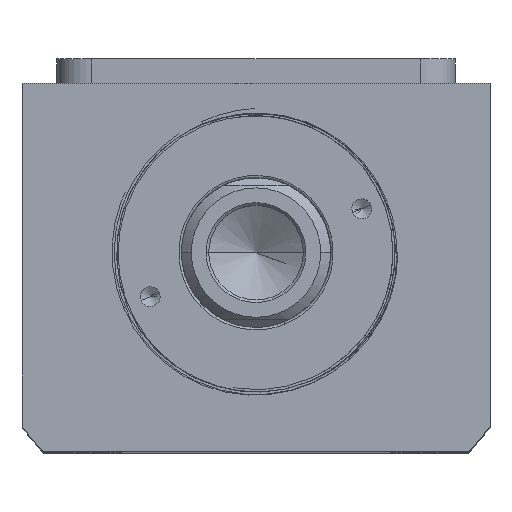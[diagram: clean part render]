
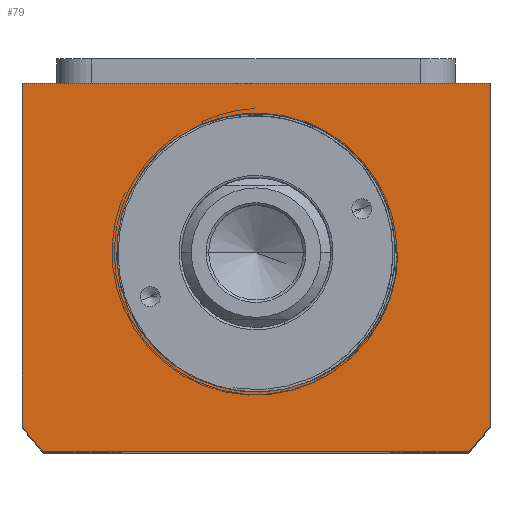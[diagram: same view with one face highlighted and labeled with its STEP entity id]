
A CAD part, top view. The second image highlights one B-rep face of the part: STEP entity #79.
In plain terms, the highlighted planar face has unit normal (0, 0, 1).
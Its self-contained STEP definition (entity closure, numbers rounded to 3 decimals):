
#7 = CARTESIAN_POINT ( 'NONE',  ( 27.555, -6.99, 75. ) ) ;
#79 = ADVANCED_FACE ( 'NONE', ( #1642, #7566 ), #760, .T. ) ;
#760 = PLANE ( 'NONE',  #10814 ) ;
#833 = LINE ( 'NONE', #6453, #7050 ) ;
#834 = CARTESIAN_POINT ( 'NONE',  ( 27.887, -5.628, 75. ) ) ;
#867 = CARTESIAN_POINT ( 'NONE',  ( 28.495, 0., 75. ) ) ;
#868 = CARTESIAN_POINT ( 'NONE',  ( 42.688, -40., 75. ) ) ;
#910 = CARTESIAN_POINT ( 'NONE',  ( 26.163, -10.961, 75. ) ) ;
#1214 = EDGE_CURVE ( 'NONE', #7648, #1430, #833, .T. ) ;
#1307 = VERTEX_POINT ( 'NONE', #7579 ) ;
#1430 = VERTEX_POINT ( 'NONE', #6919 ) ;
#1642 = FACE_BOUND ( 'NONE', #4485, .T. ) ;
#1779 = CARTESIAN_POINT ( 'NONE',  ( 24.898, -13.504, 75. ) ) ;
#1800 = CIRCLE ( 'NONE', #9232, 28. ) ;
#1940 = CARTESIAN_POINT ( 'NONE',  ( 10.89, -25.816, 75. ) ) ;
#2410 = DIRECTION ( 'NONE',  ( -1., 0., 0. ) ) ;
#2593 = CARTESIAN_POINT ( 'NONE',  ( 28., 0., 75. ) ) ;
#2654 = CIRCLE ( 'NONE', #7961, 58.5 ) ;
#2695 = CARTESIAN_POINT ( 'NONE',  ( 22.571, -17.007, 75. ) ) ;
#2772 = DIRECTION ( 'NONE',  ( 0., -1., 0. ) ) ;
#2850 = CARTESIAN_POINT ( 'NONE',  ( 0., 0., 75. ) ) ;
#3032 = VECTOR ( 'NONE', #9364, 1000. ) ;
#3091 = EDGE_CURVE ( 'NONE', #5810, #3136, #4648, .T. ) ;
#3136 = VERTEX_POINT ( 'NONE', #9973 ) ;
#3185 = EDGE_CURVE ( 'NONE', #7502, #5165, #6904, .T. ) ;
#3389 = ORIENTED_EDGE ( 'NONE', *, *, #10974, .F. ) ;
#3471 = CARTESIAN_POINT ( 'NONE',  ( -47., 34., 75. ) ) ;
#3476 = CARTESIAN_POINT ( 'NONE',  ( 20.224, -19.631, 75. ) ) ;
#3600 = DIRECTION ( 'NONE',  ( 1., 0., 0. ) ) ;
#3728 = ORIENTED_EDGE ( 'NONE', *, *, #3185, .T. ) ;
#4023 = EDGE_LOOP ( 'NONE', ( #5073, #3728, #9862, #11294, #5995, #6575 ) ) ;
#4163 = LINE ( 'NONE', #868, #4874 ) ;
#4378 = EDGE_CURVE ( 'NONE', #3136, #9559, #1800, .T. ) ;
#4383 = CARTESIAN_POINT ( 'NONE',  ( -42.688, -40., 75. ) ) ;
#4433 = CARTESIAN_POINT ( 'NONE',  ( 15.3, -23.593, 75. ) ) ;
#4485 = EDGE_LOOP ( 'NONE', ( #3389, #9601, #4853 ) ) ;
#4621 = CARTESIAN_POINT ( 'NONE',  ( -47., -34.832, 75. ) ) ;
#4648 = B_SPLINE_CURVE_WITH_KNOTS ( 'NONE', 3,
 ( #867, #10724, #7967, #8123, #6297, #834, #7, #7177, #910, #1779, #7072, #2695, #8854, #3476, #8968, #10643, #7213, #5298, #4433, #5453, #11537, #10682, #1940, #8241 ),
 .UNSPECIFIED., .F., .F.,
 ( 4, 2, 2, 2, 2, 2, 2, 2, 2, 2, 2, 4 ),
 ( 0., 0.002, 0.004, 0.009, 0.013, 0.017, 0.021, 0.023, 0.026, 0.03, 0.032, 0.034 ),
 .UNSPECIFIED. ) ;
#4779 = EDGE_CURVE ( 'NONE', #5165, #7513, #2654, .T. ) ;
#4853 = ORIENTED_EDGE ( 'NONE', *, *, #4378, .T. ) ;
#4874 = VECTOR ( 'NONE', #3600, 1000. ) ;
#5071 = CARTESIAN_POINT ( 'NONE',  ( -47., -34.832, 75. ) ) ;
#5073 = ORIENTED_EDGE ( 'NONE', *, *, #8813, .T. ) ;
#5117 = VECTOR ( 'NONE', #2410, 1000. ) ;
#5165 = VERTEX_POINT ( 'NONE', #5071 ) ;
#5298 = CARTESIAN_POINT ( 'NONE',  ( 16.467, -22.819, 75. ) ) ;
#5361 = DIRECTION ( 'NONE',  ( 1., 0., 0. ) ) ;
#5453 = CARTESIAN_POINT ( 'NONE',  ( 13.459, -24.624, 75. ) ) ;
#5457 = DIRECTION ( 'NONE',  ( 0., 0., -1. ) ) ;
#5725 = CIRCLE ( 'NONE', #6504, 58.5 ) ;
#5810 = VERTEX_POINT ( 'NONE', #10367 ) ;
#5995 = ORIENTED_EDGE ( 'NONE', *, *, #8532, .T. ) ;
#6168 = CARTESIAN_POINT ( 'NONE',  ( 47., -34.832, 75. ) ) ;
#6297 = CARTESIAN_POINT ( 'NONE',  ( 28.233, -3.538, 75. ) ) ;
#6453 = CARTESIAN_POINT ( 'NONE',  ( 47., 34., 75. ) ) ;
#6504 = AXIS2_PLACEMENT_3D ( 'NONE', #8042, #8005, #9706 ) ;
#6575 = ORIENTED_EDGE ( 'NONE', *, *, #1214, .T. ) ;
#6689 = LINE ( 'NONE', #7813, #5117 ) ;
#6904 = LINE ( 'NONE', #4621, #9950 ) ;
#6919 = CARTESIAN_POINT ( 'NONE',  ( 47., 34., 75. ) ) ;
#7050 = VECTOR ( 'NONE', #10963, 1000. ) ;
#7072 = CARTESIAN_POINT ( 'NONE',  ( 24.178, -14.712, 75. ) ) ;
#7177 = CARTESIAN_POINT ( 'NONE',  ( 26.694, -9.657, 75. ) ) ;
#7213 = CARTESIAN_POINT ( 'NONE',  ( 18.129, -21.529, 75. ) ) ;
#7502 = VERTEX_POINT ( 'NONE', #3471 ) ;
#7513 = VERTEX_POINT ( 'NONE', #4383 ) ;
#7566 = FACE_OUTER_BOUND ( 'NONE', #4023, .T. ) ;
#7579 = CARTESIAN_POINT ( 'NONE',  ( 42.688, -40., 75. ) ) ;
#7648 = VERTEX_POINT ( 'NONE', #6168 ) ;
#7813 = CARTESIAN_POINT ( 'NONE',  ( 0., 0., 75. ) ) ;
#7817 = DIRECTION ( 'NONE',  ( 0., 0., 1. ) ) ;
#7961 = AXIS2_PLACEMENT_3D ( 'NONE', #10712, #8029, #5361 ) ;
#7967 = CARTESIAN_POINT ( 'NONE',  ( 28.449, -1.419, 75. ) ) ;
#8005 = DIRECTION ( 'NONE',  ( 0., 0., 1. ) ) ;
#8029 = DIRECTION ( 'NONE',  ( 0., 0., 1. ) ) ;
#8042 = CARTESIAN_POINT ( 'NONE',  ( 0., 0., 75. ) ) ;
#8123 = CARTESIAN_POINT ( 'NONE',  ( 28.323, -2.832, 75. ) ) ;
#8241 = CARTESIAN_POINT ( 'NONE',  ( 10.232, -26.064, 75. ) ) ;
#8532 = EDGE_CURVE ( 'NONE', #1307, #7648, #5725, .T. ) ;
#8566 = EDGE_CURVE ( 'NONE', #7513, #1307, #4163, .T. ) ;
#8653 = LINE ( 'NONE', #10796, #3032 ) ;
#8813 = EDGE_CURVE ( 'NONE', #1430, #7502, #8653, .T. ) ;
#8854 = CARTESIAN_POINT ( 'NONE',  ( 21.684, -18.094, 75. ) ) ;
#8968 = CARTESIAN_POINT ( 'NONE',  ( 19.714, -20.129, 75. ) ) ;
#9232 = AXIS2_PLACEMENT_3D ( 'NONE', #2850, #5457, #9904 ) ;
#9364 = DIRECTION ( 'NONE',  ( -1., 0., 0. ) ) ;
#9559 = VERTEX_POINT ( 'NONE', #2593 ) ;
#9601 = ORIENTED_EDGE ( 'NONE', *, *, #3091, .T. ) ;
#9706 = DIRECTION ( 'NONE',  ( 1., 0., 0. ) ) ;
#9862 = ORIENTED_EDGE ( 'NONE', *, *, #4779, .T. ) ;
#9904 = DIRECTION ( 'NONE',  ( 1., 0., 0. ) ) ;
#9950 = VECTOR ( 'NONE', #2772, 1000. ) ;
#9973 = CARTESIAN_POINT ( 'NONE',  ( 10.232, -26.064, 75. ) ) ;
#10367 = CARTESIAN_POINT ( 'NONE',  ( 28.495, 0., 75. ) ) ;
#10643 = CARTESIAN_POINT ( 'NONE',  ( 18.667, -21.077, 75. ) ) ;
#10682 = CARTESIAN_POINT ( 'NONE',  ( 11.542, -25.544, 75. ) ) ;
#10712 = CARTESIAN_POINT ( 'NONE',  ( 0., 0., 75. ) ) ;
#10724 = CARTESIAN_POINT ( 'NONE',  ( 28.485, -0.71, 75. ) ) ;
#10796 = CARTESIAN_POINT ( 'NONE',  ( -47., 34., 75. ) ) ;
#10814 = AXIS2_PLACEMENT_3D ( 'NONE', #11387, #7817, #11426 ) ;
#10963 = DIRECTION ( 'NONE',  ( 0., 1., 0. ) ) ;
#10974 = EDGE_CURVE ( 'NONE', #5810, #9559, #6689, .T. ) ;
#11294 = ORIENTED_EDGE ( 'NONE', *, *, #8566, .T. ) ;
#11387 = CARTESIAN_POINT ( 'NONE',  ( 0., 0., 75. ) ) ;
#11426 = DIRECTION ( 'NONE',  ( 1., 0., 0. ) ) ;
#11537 = CARTESIAN_POINT ( 'NONE',  ( 12.831, -24.945, 75. ) ) ;
